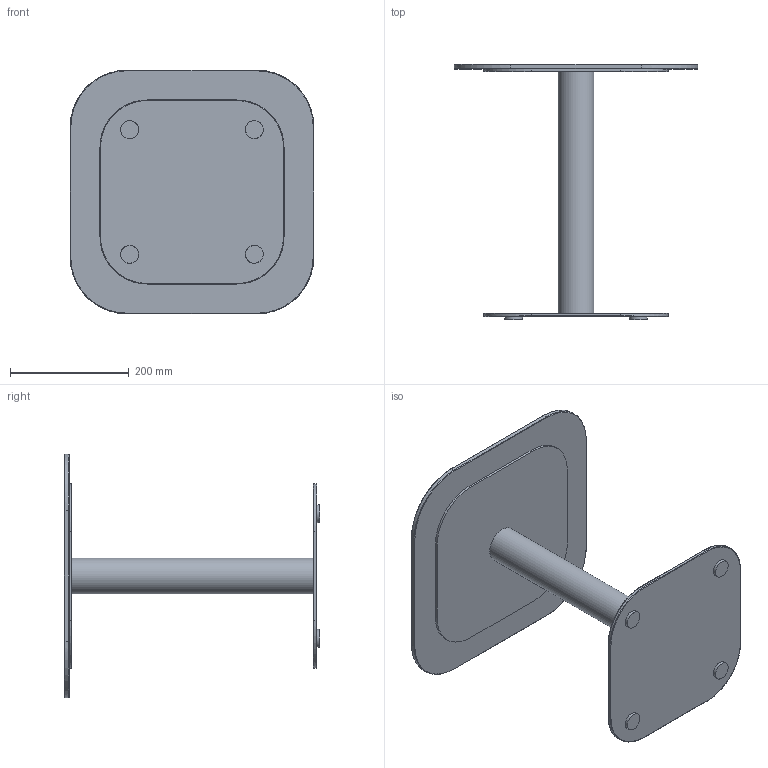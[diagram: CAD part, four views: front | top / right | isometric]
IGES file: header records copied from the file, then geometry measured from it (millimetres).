
Global section: file name: VincentSheppard_Kodo_ST; native system: unknown; preprocessor: unknown; author: unknown; organization: unknown; date: 20190924.082919; units: millimetre
Bounding box: 410 x 430 x 410 mm (x, y, z)
Volume: 3353855 mm3; surface area: 793342.5 mm2
Topology: 8 solids, 8 shells, 77 faces, 151 edges, 90 vertices
Faces by surface type: bspline 77
